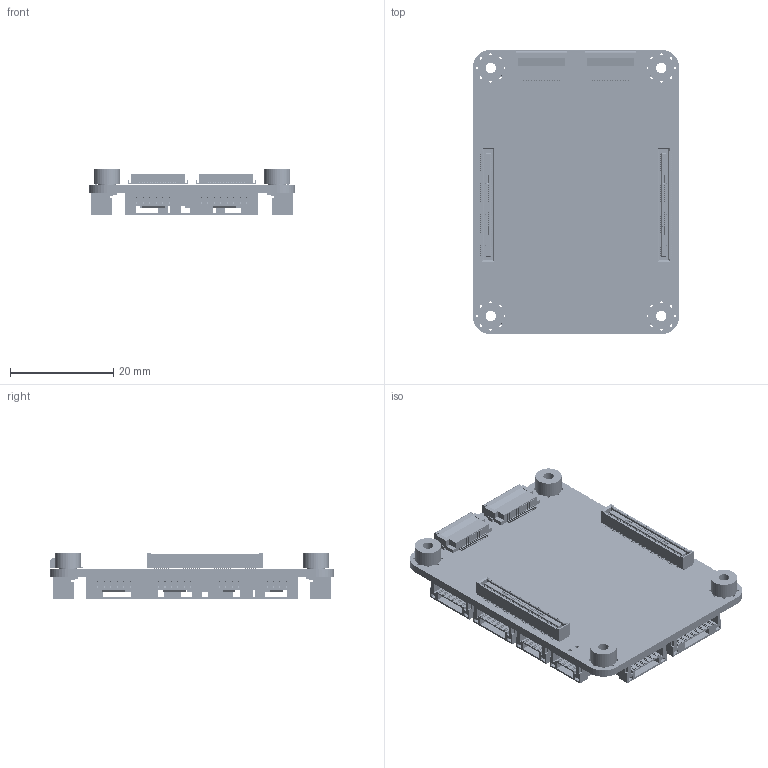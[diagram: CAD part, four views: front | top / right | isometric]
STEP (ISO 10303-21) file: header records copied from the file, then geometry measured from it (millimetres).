
FILE_DESCRIPTION(/* description */ ('KiCad electronic assembly'),/* implementation_level */ '2;1');
FILE_NAME(/* name */ 'Kelvin_Public.step',/* time_stamp */ '2025-08-18T13:43:41+03:00',/* author */ (''),/* organization */ (''),/* preprocessor_version */ 'ST-DEVELOPER v20.1',/* originating_system */ 'Autodesk Translation Framework v14.10.0.0',/* authorisation */ '');
FILE_SCHEMA (('AUTOMOTIVE_DESIGN { 1 0 10303 214 3 1 1 }'));
Products named in the file (12): Kelvin 1; Hirose_FH12-15S-0.5SH_1x15-1MP_P0.50mm_Horizontal; body; lock; pins; DF40HC_3.0_-100DS-0.4V_58; SMTSO2530CTJ; JST_GH_SM08B-GHS-TB_1x08-1MP_P1.25mm_Horizontal; JST_GH_SM04B-GHS-TB_1x04-1MP_P1.25mm_Horizontal; JST_GH_SM06B-GHS-TB_1x06-1MP_P1.25mm_Horizontal; Kelvin_silkscreen; Kelvin_PCB
Assembly tree (25 placements, depth 3):
  Kelvin 1
    DF40HC_3.0_-100DS-0.4V_58  x2
    SMTSO2530CTJ  x4
    Hirose_FH12-15S-0.5SH_1x15-1MP_P0.50mm_Horizontal  x2
      body
      lock
      pins
    JST_GH_SM04B-GHS-TB_1x04-1MP_P1.25mm_Horizontal  x5
    JST_GH_SM08B-GHS-TB_1x08-1MP_P1.25mm_Horizontal  x3
    JST_GH_SM06B-GHS-TB_1x06-1MP_P1.25mm_Horizontal  x4
    Kelvin_silkscreen
    Kelvin_PCB
Bounding box: 40 x 55 x 8.93 mm (x, y, z)
Volume: 5267.7 mm3; surface area: 12363.8 mm2
Topology: 225 solids, 633 shells, 17876 faces, 54507 edges, 37855 vertices
Faces by surface type: plane 15554, cylinder 2314, cone 8
Full cylindrical faces by diameter (mm): 0.235 x2, 0.37 x2, 0.5 x32, 0.7 x2, 2.013 x4, 3.5 x4, 4.2 x4, 5.1 x4
Entity records: 308591 total; most frequent: CARTESIAN_POINT 56110, ORIENTED_EDGE 50509, DIRECTION 48075, EDGE_CURVE 27634, LINE 24107, VECTOR 24107, VERTEX_POINT 19987, AXIS2_PLACEMENT_3D 11984
